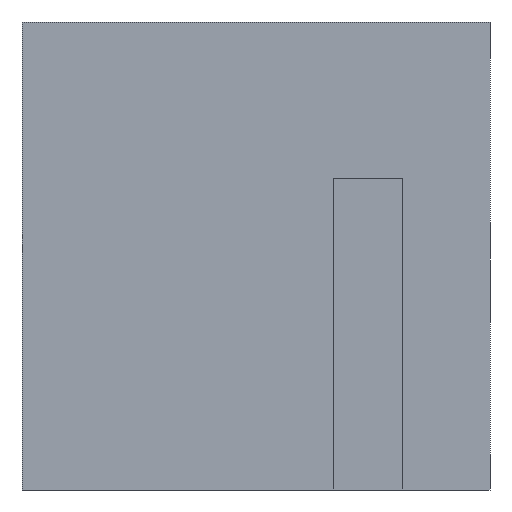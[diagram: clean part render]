
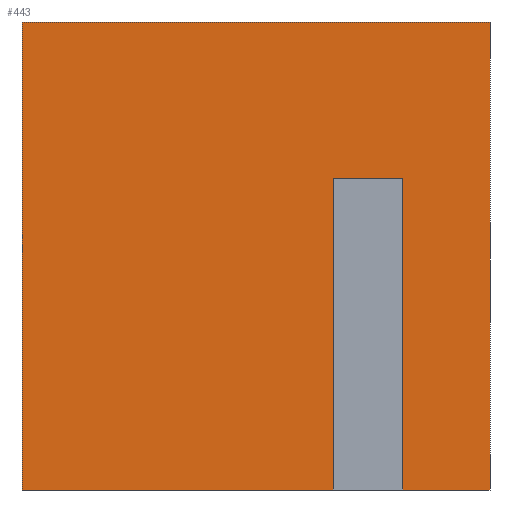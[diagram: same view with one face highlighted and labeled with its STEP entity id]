
A CAD part, left-side view. The second image highlights one B-rep face of the part: STEP entity #443.
In plain terms, the highlighted planar face has unit normal (-1, 0, 0).
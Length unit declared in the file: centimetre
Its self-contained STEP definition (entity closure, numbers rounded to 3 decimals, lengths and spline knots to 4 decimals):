
#1 = CARTESIAN_POINT ( 'NONE',  ( 0., 1000., 0. ) ) ;
#5 = EDGE_LOOP ( 'NONE', ( #234, #1056, #547, #921, #616, #236, #1063, #1042 ) ) ;
#34 = EDGE_CURVE ( 'NONE', #72, #736, #924, .T. ) ;
#43 = DIRECTION ( 'NONE',  ( 0., 0., -1. ) ) ;
#72 = VERTEX_POINT ( 'NONE', #274 ) ;
#100 = DIRECTION ( 'NONE',  ( 0., 0., -1. ) ) ;
#103 = CARTESIAN_POINT ( 'NONE',  ( 0., 1000., 0. ) ) ;
#121 = CARTESIAN_POINT ( 'NONE',  ( 0., 335.2006, 666.0701 ) ) ;
#145 = LINE ( 'NONE', #795, #663 ) ;
#147 = LINE ( 'NONE', #776, #343 ) ;
#198 = EDGE_CURVE ( 'NONE', #256, #503, #219, .T. ) ;
#219 = LINE ( 'NONE', #390, #773 ) ;
#234 = ORIENTED_EDGE ( 'NONE', *, *, #385, .F. ) ;
#236 = ORIENTED_EDGE ( 'NONE', *, *, #684, .T. ) ;
#256 = VERTEX_POINT ( 'NONE', #689 ) ;
#274 = CARTESIAN_POINT ( 'NONE',  ( 0., 1000., 0. ) ) ;
#282 = VECTOR ( 'NONE', #978, 100. ) ;
#328 = LINE ( 'NONE', #1, #1013 ) ;
#343 = VECTOR ( 'NONE', #43, 100. ) ;
#352 = PLANE ( 'NONE',  #419 ) ;
#357 = VECTOR ( 'NONE', #1037, 100. ) ;
#373 = LINE ( 'NONE', #381, #357 ) ;
#376 = VECTOR ( 'NONE', #746, 100. ) ;
#381 = CARTESIAN_POINT ( 'NONE',  ( 0., 335.2006, 666.0701 ) ) ;
#385 = EDGE_CURVE ( 'NONE', #519, #568, #145, .T. ) ;
#390 = CARTESIAN_POINT ( 'NONE',  ( 0., 1000., 1000. ) ) ;
#419 = AXIS2_PLACEMENT_3D ( 'NONE', #670, #995, #100 ) ;
#420 = DIRECTION ( 'NONE',  ( 0., 0., -1. ) ) ;
#435 = FACE_OUTER_BOUND ( 'NONE', #5, .T. ) ;
#443 = ADVANCED_FACE ( 'NONE', ( #435 ), #352, .F. ) ;
#460 = DIRECTION ( 'NONE',  ( 0., -1., 0. ) ) ;
#483 = LINE ( 'NONE', #812, #688 ) ;
#503 = VERTEX_POINT ( 'NONE', #532 ) ;
#519 = VERTEX_POINT ( 'NONE', #713 ) ;
#532 = CARTESIAN_POINT ( 'NONE',  ( 0., 0., 1000. ) ) ;
#547 = ORIENTED_EDGE ( 'NONE', *, *, #990, .T. ) ;
#549 = CARTESIAN_POINT ( 'NONE',  ( 0., 186.6755, 0. ) ) ;
#564 = VERTEX_POINT ( 'NONE', #789 ) ;
#568 = VERTEX_POINT ( 'NONE', #121 ) ;
#616 = ORIENTED_EDGE ( 'NONE', *, *, #198, .F. ) ;
#663 = VECTOR ( 'NONE', #717, 100. ) ;
#670 = CARTESIAN_POINT ( 'NONE',  ( 0., 1000., 1000. ) ) ;
#684 = EDGE_CURVE ( 'NONE', #256, #72, #147, .T. ) ;
#688 = VECTOR ( 'NONE', #420, 100. ) ;
#689 = CARTESIAN_POINT ( 'NONE',  ( 0., 1000., 1000. ) ) ;
#713 = CARTESIAN_POINT ( 'NONE',  ( 0., 186.6755, 666.0701 ) ) ;
#717 = DIRECTION ( 'NONE',  ( 0., 1., 0. ) ) ;
#736 = VERTEX_POINT ( 'NONE', #779 ) ;
#746 = DIRECTION ( 'NONE',  ( 0., -1., 0. ) ) ;
#749 = EDGE_CURVE ( 'NONE', #568, #736, #373, .T. ) ;
#773 = VECTOR ( 'NONE', #460, 100. ) ;
#776 = CARTESIAN_POINT ( 'NONE',  ( 0., 1000., 1000. ) ) ;
#779 = CARTESIAN_POINT ( 'NONE',  ( 0., 335.2006, 0. ) ) ;
#789 = CARTESIAN_POINT ( 'NONE',  ( 0., 0., 0. ) ) ;
#795 = CARTESIAN_POINT ( 'NONE',  ( 0., 186.6755, 666.0701 ) ) ;
#806 = LINE ( 'NONE', #893, #282 ) ;
#812 = CARTESIAN_POINT ( 'NONE',  ( 0., 186.6755, 666.0701 ) ) ;
#893 = CARTESIAN_POINT ( 'NONE',  ( 0., 0., 1000. ) ) ;
#904 = VERTEX_POINT ( 'NONE', #549 ) ;
#908 = DIRECTION ( 'NONE',  ( 0., -1., 0. ) ) ;
#921 = ORIENTED_EDGE ( 'NONE', *, *, #983, .F. ) ;
#924 = LINE ( 'NONE', #103, #376 ) ;
#978 = DIRECTION ( 'NONE',  ( 0., 0., -1. ) ) ;
#983 = EDGE_CURVE ( 'NONE', #503, #564, #806, .T. ) ;
#990 = EDGE_CURVE ( 'NONE', #904, #564, #328, .T. ) ;
#995 = DIRECTION ( 'NONE',  ( 1., 0., 0. ) ) ;
#1013 = VECTOR ( 'NONE', #908, 100. ) ;
#1037 = DIRECTION ( 'NONE',  ( 0., 0., -1. ) ) ;
#1038 = EDGE_CURVE ( 'NONE', #519, #904, #483, .T. ) ;
#1042 = ORIENTED_EDGE ( 'NONE', *, *, #749, .F. ) ;
#1056 = ORIENTED_EDGE ( 'NONE', *, *, #1038, .T. ) ;
#1063 = ORIENTED_EDGE ( 'NONE', *, *, #34, .T. ) ;
